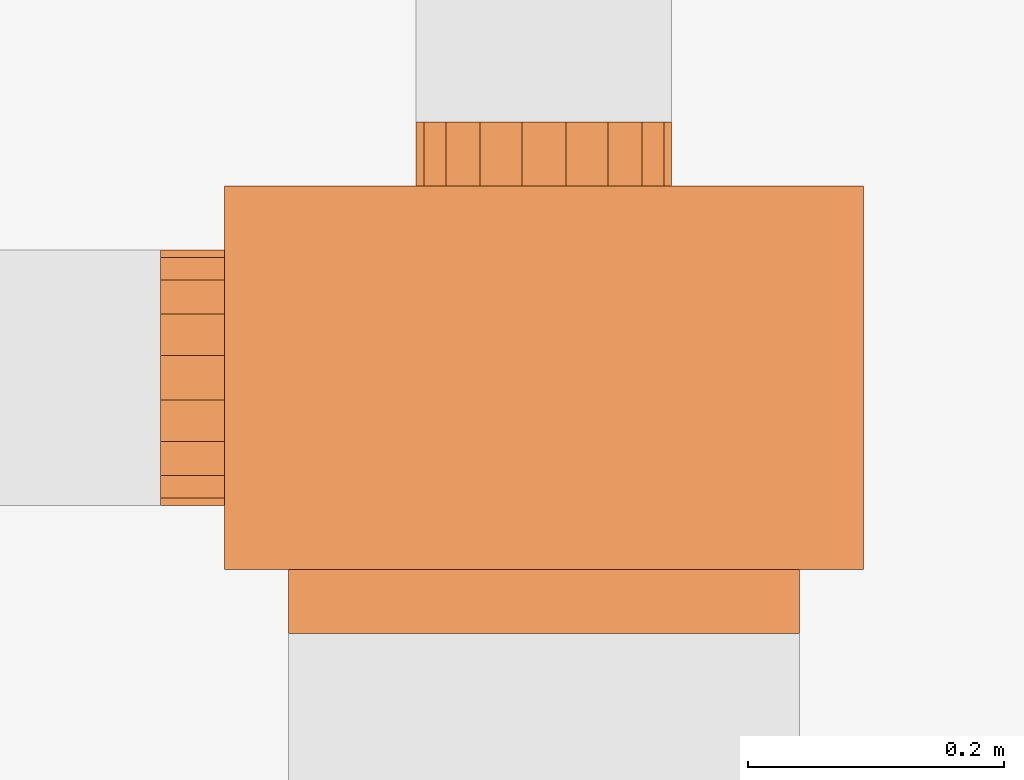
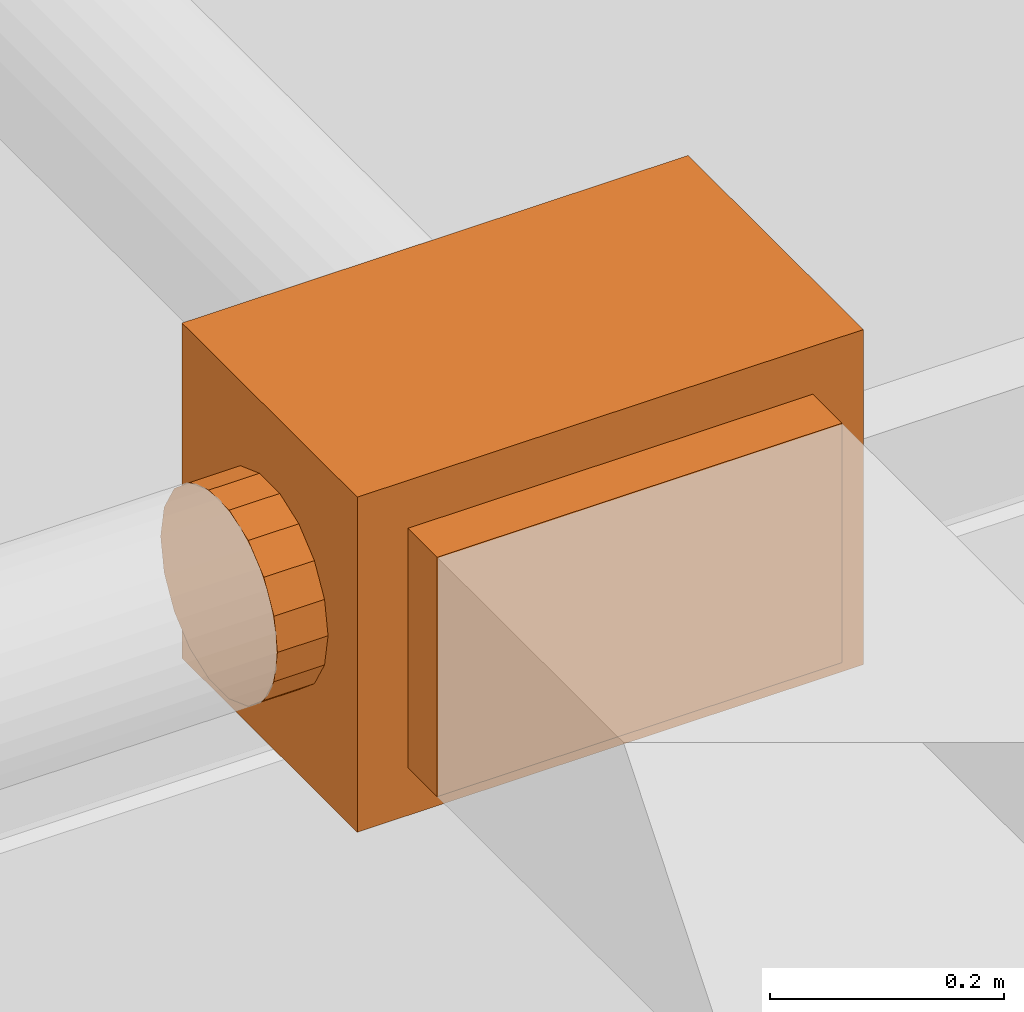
# One storey, part 100 of 100: 1 proxy.
"""IFC2X3 building model written with IfcOpenShell, lengths in millimetres."""

from ifc_helpers import new_model, entity, si_unit, converted_unit, derived_unit, direction, frame, origin, place, context, subcontext, project, spatial, faceted_brep, source, transform, mapped, material, material_list, type_object, type_shapes, element, save


model = new_model("IFC2X3")

# Units and contexts
model_context = context("Model", 3, precision=0.01, world=origin(), true_north=direction((6.123031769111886e-17, 1.0)))
body_context = subcontext(model_context, "Body", "Model", "MODEL_VIEW")
ifc_project = project(units=[si_unit("LENGTHUNIT", "METRE", prefix="MILLI"), si_unit("AREAUNIT", "SQUARE_METRE"), si_unit("VOLUMEUNIT", "CUBIC_METRE"), converted_unit("PLANEANGLEUNIT", "DEGREE", entity("IfcRatioMeasure", 0.017453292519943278), si_unit("PLANEANGLEUNIT", "RADIAN"), dimensions=[0, 0, 0, 0, 0, 0, 0]), si_unit("MASSUNIT", "GRAM", prefix="KILO"), derived_unit("MASSDENSITYUNIT", [(si_unit("MASSUNIT", "GRAM", prefix="KILO"), 1), (si_unit("LENGTHUNIT", "METRE"), -3)]), derived_unit("MOMENTOFINERTIAUNIT", [(si_unit("LENGTHUNIT", "METRE"), 4)]), si_unit("TIMEUNIT", "SECOND"), si_unit("FREQUENCYUNIT", "HERTZ"), si_unit("THERMODYNAMICTEMPERATUREUNIT", "DEGREE_CELSIUS"), derived_unit("THERMALTRANSMITTANCEUNIT", [(si_unit("MASSUNIT", "GRAM", prefix="KILO"), 1), (si_unit("THERMODYNAMICTEMPERATUREUNIT", "KELVIN"), -1), (si_unit("TIMEUNIT", "SECOND"), -3)]), derived_unit("VOLUMETRICFLOWRATEUNIT", [(si_unit("LENGTHUNIT", "METRE"), 3), (si_unit("TIMEUNIT", "SECOND"), -1)]), derived_unit("MASSFLOWRATEUNIT", [(si_unit("MASSUNIT", "GRAM", prefix="KILO"), 1), (si_unit("TIMEUNIT", "SECOND"), -1)]), derived_unit("ROTATIONALFREQUENCYUNIT", [(si_unit("TIMEUNIT", "SECOND"), -1)]), si_unit("ELECTRICCURRENTUNIT", "AMPERE"), si_unit("ELECTRICVOLTAGEUNIT", "VOLT"), si_unit("POWERUNIT", "WATT"), si_unit("FORCEUNIT", "NEWTON", prefix="KILO"), si_unit("ILLUMINANCEUNIT", "LUX"), si_unit("LUMINOUSFLUXUNIT", "LUMEN"), si_unit("LUMINOUSINTENSITYUNIT", "CANDELA"), derived_unit("USERDEFINED", [(si_unit("MASSUNIT", "GRAM", prefix="KILO"), -1), (si_unit("LENGTHUNIT", "METRE"), -2), (si_unit("TIMEUNIT", "SECOND"), 3), (si_unit("LUMINOUSFLUXUNIT", "LUMEN"), 1)]), derived_unit("SOUNDPOWERUNIT", [(si_unit("MASSUNIT", "GRAM", prefix="KILO"), 1), (si_unit("LENGTHUNIT", "METRE"), 2), (si_unit("TIMEUNIT", "SECOND"), -3)]), derived_unit("SOUNDPRESSUREUNIT", [(si_unit("MASSUNIT", "GRAM", prefix="KILO"), 1), (si_unit("LENGTHUNIT", "METRE"), -1), (si_unit("TIMEUNIT", "SECOND"), -2)]), derived_unit("LINEARVELOCITYUNIT", [(si_unit("LENGTHUNIT", "METRE"), 1), (si_unit("TIMEUNIT", "SECOND"), -1)]), si_unit("PRESSUREUNIT", "PASCAL"), derived_unit("USERDEFINED", [(si_unit("LENGTHUNIT", "METRE"), -2), (si_unit("MASSUNIT", "GRAM", prefix="KILO"), 1), (si_unit("TIMEUNIT", "SECOND"), -2)]), derived_unit("LINEARFORCEUNIT", [(si_unit("MASSUNIT", "GRAM", prefix="KILO"), 1), (si_unit("LENGTHUNIT", "METRE"), 1), (si_unit("TIMEUNIT", "SECOND"), -2), (si_unit("LENGTHUNIT", "METRE"), -1)]), derived_unit("PLANARFORCEUNIT", [(si_unit("MASSUNIT", "GRAM", prefix="KILO"), 1), (si_unit("LENGTHUNIT", "METRE"), 1), (si_unit("TIMEUNIT", "SECOND"), -2), (si_unit("LENGTHUNIT", "METRE"), -2)])], contexts=[model_context])

# Site, building, storey
site_placement = place(None, frame((-14167.972527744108, -657.2125860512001, 0.0)))
site = spatial("IfcSite", under=ifc_project, at=site_placement, Name="Default", CompositionType="ELEMENT")
building_placement = place(site_placement, origin())
building = spatial("IfcBuilding", under=site, at=building_placement, Name="Sample Building", CompositionType="ELEMENT")
storey_placement = place(building_placement, origin())
storey = spatial("IfcBuildingStorey", under=building, at=storey_placement, Name="지상 1층", CompositionType="ELEMENT", Elevation=0.0)

# Proxy
ifc_material = material(Name="VAV Unit")
ifc_material_list_1 = material_list([ifc_material, ifc_material, ifc_material, ifc_material])
ifc_material_list_2 = material_list([ifc_material, ifc_material, ifc_material, ifc_material])
building_element_proxy_type = type_object("IfcBuildingElementProxyType", Name="VAV Unit_RA:400x250 - 200A - 200A", PredefinedType="NOTDEFINED", material=ifc_material_list_2)
shared_shape = source(origin(), body_context, "Body", "Brep", [
    faceted_brep([(200.0, -76.60444431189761, -64.27876096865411), (200.0, 0.0, 0.0), (200.0, -93.9692620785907, -34.20201433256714), (200.0, -50.0, -86.60254037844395), (200.0, -17.364817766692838, -98.48077530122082), (200.0, 17.364817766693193, -98.48077530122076), (200.0, 50.0, -86.60254037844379), (200.0, 76.60444431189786, -64.27876096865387), (200.0, 93.96926207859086, -34.20201433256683), (200.0, 100.0, 0.0), (200.0, 93.96926207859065, 34.20201433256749), (200.0, 76.60444431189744, 64.2787609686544), (200.0, 50.0, 86.60254037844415), (200.0, 17.364817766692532, 98.4807753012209), (200.0, -17.364817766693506, 98.48077530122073), (200.0, -50.0, 86.60254037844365), (200.0, -76.60444431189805, 64.27876096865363), (200.0, -93.96926207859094, 34.20201433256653), (200.0, -100.0, 0.0), (150.0, 100.0, 0.0), (150.0, 93.96926207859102, -34.202014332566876), (150.0, 76.60444431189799, -64.27876096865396), (150.0, 50.0, -86.60254037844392), (150.0, 17.36481776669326, -98.48077530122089), (150.0, -17.364817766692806, -98.48077530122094), (150.0, -50.0, -86.60254037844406), (150.0, -93.96926207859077, -34.202014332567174), (150.0, -76.60444431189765, -64.27876096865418), (150.0, -100.0, 0.0), (150.0, -93.969262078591, 34.20201433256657), (150.0, -76.60444431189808, 64.27876096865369), (150.0, -50.0, 86.60254037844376), (150.0, -17.36481776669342, 98.48077530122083), (150.0, 17.364817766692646, 98.480775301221), (150.0, 50.0, 86.60254037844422), (150.0, 93.9692620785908, 34.20201433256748), (150.0, 76.6044443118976, 64.27876096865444), (150.0, 0.0, 0.0)], [[[0, 1, 2]], [[3, 1, 0]], [[1, 3, 4]], [[4, 5, 1]], [[5, 6, 1]], [[7, 1, 6]], [[7, 8, 1]], [[8, 9, 1]], [[9, 10, 1]], [[11, 1, 10]], [[11, 12, 1]], [[12, 13, 1]], [[14, 1, 13]], [[14, 15, 1]], [[15, 16, 1]], [[16, 17, 1]], [[1, 17, 18]], [[1, 18, 2]], [[19, 9, 8, 20]], [[21, 7, 6, 22]], [[8, 7, 21, 20]], [[6, 5, 23, 22]], [[5, 4, 24, 23]], [[4, 3, 25, 24]], [[26, 27, 0, 2]], [[0, 27, 25, 3]], [[28, 26, 2, 18]], [[28, 18, 17, 29]], [[30, 16, 15, 31]], [[17, 16, 30, 29]], [[15, 14, 32, 31]], [[14, 13, 33, 32]], [[33, 13, 12, 34]], [[10, 9, 19, 35]], [[11, 10, 35, 36]], [[34, 12, 11, 36]], [[26, 37, 27]], [[26, 28, 37]], [[28, 29, 37]], [[37, 29, 30]], [[37, 30, 31]], [[37, 31, 32]], [[33, 37, 32]], [[37, 33, 34]], [[37, 34, 36]], [[35, 37, 36]], [[37, 35, 19]], [[37, 19, 20]], [[37, 20, 21]], [[22, 37, 21]], [[37, 22, 23]], [[37, 23, 24]], [[24, 25, 37]], [[27, 37, 25]]]),
    faceted_brep([(-76.6044443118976, 250.0, -64.2787609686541), (0.0, 250.0, 0.0), (-93.96926207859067, 250.0, -34.20201433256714), (-50.0, 250.0, -86.60254037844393), (-17.364817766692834, 250.0, -98.48077530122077), (17.36481776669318, 250.0, -98.48077530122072), (50.0, 250.0, -86.60254037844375), (76.6044443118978, 250.0, -64.27876096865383), (93.96926207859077, 250.0, -34.20201433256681), (100.0, 250.0, 0.0), (93.96926207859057, 250.0, 34.20201433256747), (76.60444431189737, 250.0, 64.27876096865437), (50.0, 250.0, 86.6025403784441), (17.364817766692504, 250.0, 98.48077530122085), (-17.364817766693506, 250.0, 98.48077530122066), (-50.0, 250.0, 86.60254037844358), (-76.604444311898, 250.0, 64.27876096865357), (-93.9692620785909, 250.0, 34.202014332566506), (-100.0, 250.0, 0.0), (100.0, 300.0, 0.0), (93.96926207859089, 300.0, -34.20201433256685), (76.60444431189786, 300.0, -64.2787609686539), (50.0, 300.0, -86.60254037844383), (17.36481776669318, 300.0, -98.4807753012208), (-17.36481776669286, 300.0, -98.48077530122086), (-50.0, 300.0, -86.602540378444), (-93.96926207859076, 300.0, -34.202014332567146), (-76.60444431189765, 300.0, -64.27876096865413), (-100.0, 300.0, 0.0), (-93.96926207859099, 300.0, 34.20201433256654), (-76.60444431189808, 300.0, 64.27876096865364), (-50.0, 300.0, 86.60254037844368), (-17.364817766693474, 300.0, 98.48077530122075), (17.36481776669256, 300.0, 98.48077530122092), (50.0, 300.0, 86.60254037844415), (93.96926207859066, 300.0, 34.20201433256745), (76.60444431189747, 300.0, 64.27876096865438), (0.0, 300.0, 0.0)], [[[0, 1, 2]], [[3, 1, 0]], [[1, 3, 4]], [[4, 5, 1]], [[5, 6, 1]], [[7, 1, 6]], [[7, 8, 1]], [[8, 9, 1]], [[9, 10, 1]], [[11, 1, 10]], [[11, 12, 1]], [[12, 13, 1]], [[14, 1, 13]], [[14, 15, 1]], [[15, 16, 1]], [[16, 17, 1]], [[1, 17, 18]], [[1, 18, 2]], [[19, 9, 8, 20]], [[21, 7, 6, 22]], [[8, 7, 21, 20]], [[6, 5, 23, 22]], [[5, 4, 24, 23]], [[4, 3, 25, 24]], [[26, 27, 0, 2]], [[0, 27, 25, 3]], [[28, 26, 2, 18]], [[28, 18, 17, 29]], [[30, 16, 15, 31]], [[17, 16, 30, 29]], [[15, 14, 32, 31]], [[14, 13, 33, 32]], [[33, 13, 12, 34]], [[10, 9, 19, 35]], [[11, 10, 35, 36]], [[34, 12, 11, 36]], [[26, 37, 27]], [[26, 28, 37]], [[28, 29, 37]], [[37, 29, 30]], [[37, 30, 31]], [[37, 31, 32]], [[33, 37, 32]], [[37, 33, 34]], [[37, 34, 36]], [[35, 37, 36]], [[37, 35, 19]], [[37, 19, 20]], [[37, 20, 21]], [[22, 37, 21]], [[37, 22, 23]], [[37, 23, 24]], [[24, 25, 37]], [[27, 37, 25]]]),
    faceted_brep([(-150.0, 200.0, 125.0), (-200.0, 200.0, 125.0), (-200.0, -200.0, 125.0), (-150.0, -200.0, 125.0), (-150.0, 200.0, -125.0), (-150.0, -200.0, -125.0), (-200.0, -200.0, -125.0), (-200.0, 200.0, -125.0)], [[[0, 1, 2, 3]], [[4, 5, 6, 7]], [[1, 0, 4, 7]], [[2, 1, 7, 6]], [[3, 2, 6, 5]], [[0, 3, 5, 4]]]),
    faceted_brep([(150.0, 250.0, 175.0), (-150.0, 250.0, 175.0), (-150.0, -250.0, 175.0), (150.0, -250.0, 175.0), (150.0, 250.0, -175.0), (150.0, -250.0, -175.0), (-150.0, -250.0, -175.0), (-150.0, 250.0, -175.0)], [[[0, 1, 2, 3]], [[4, 5, 6, 7]], [[1, 0, 4, 7]], [[2, 1, 7, 6]], [[3, 2, 6, 5]], [[0, 3, 5, 4]]]),
])
type_shapes(building_element_proxy_type, [shared_shape])
proxy_placement = place(storey_placement, frame((26099.510782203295, 31013.300251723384, 4180.0), z_axis=(0.0, 0.0, 1.0), x_axis=(0.0, 1.0, 0.0)))
element("IfcBuildingElementProxy", 1, at=proxy_placement, inside=storey, type_object=building_element_proxy_type, material=ifc_material_list_1, Name="VAV Unit_RA:400x250 - 200A - 200A", ObjectType="VAV Unit_RA:400x250 - 200A - 200A", context=body_context, shape_type="MappedRepresentation", body=[
    mapped(shared_shape, transform((0.0, 0.0, 0.0), scale=1.0)),
])

save(model, "model.ifc")
